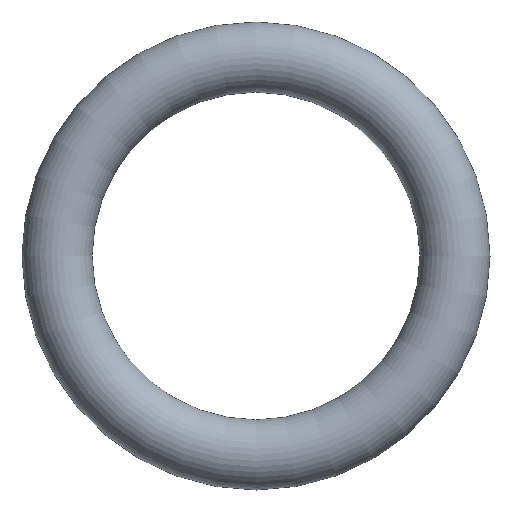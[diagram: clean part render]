
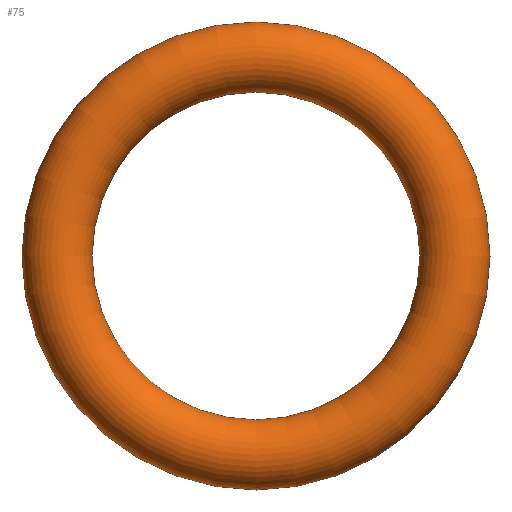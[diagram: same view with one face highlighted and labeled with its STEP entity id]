
A CAD part, front view. The second image highlights one B-rep face of the part: STEP entity #75.
In plain terms, the highlighted toroidal (fillet/blend) face has major radius 4.25 mm and minor radius 0.75 mm.
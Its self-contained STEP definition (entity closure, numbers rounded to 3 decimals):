
#75 = ADVANCED_FACE( '', ( #77 ), #78, .T. );
#77 = FACE_BOUND( '', #79, .T. );
#78 = TOROIDAL_SURFACE( '', #80, 4.25, 0.75 );
#79 = VERTEX_LOOP( '', #81 );
#80 = AXIS2_PLACEMENT_3D( '', #82, #83, #84 );
#81 = VERTEX_POINT( '', #85 );
#82 = CARTESIAN_POINT( '', ( 0., 0., 0. ) );
#83 = DIRECTION( '', ( 0., -1., 0. ) );
#84 = DIRECTION( '', ( 0., 0., -1. ) );
#85 = CARTESIAN_POINT( '', ( 0., 0., -5. ) );
